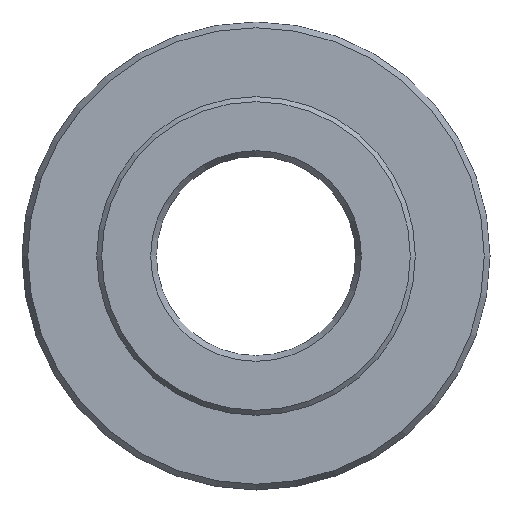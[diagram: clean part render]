
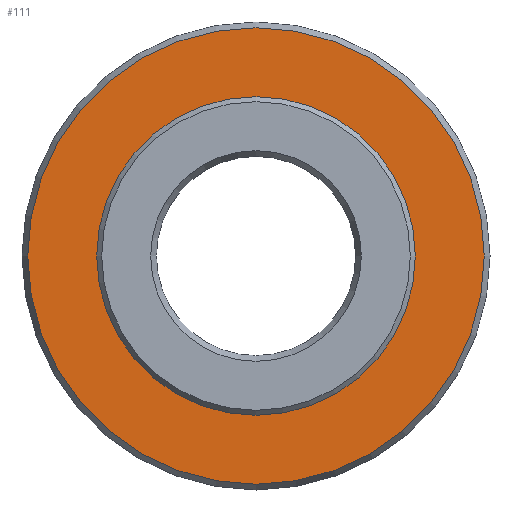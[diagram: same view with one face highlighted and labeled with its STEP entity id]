
A CAD part, left-side view. The second image highlights one B-rep face of the part: STEP entity #111.
In plain terms, the highlighted planar face has unit normal (-1, 0, 0).
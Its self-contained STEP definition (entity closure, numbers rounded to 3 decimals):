
#97=PLANE('',#323);
#111=ADVANCED_FACE('',(#144,#145),#97,.T.);
#144=FACE_BOUND('',#175,.T.);
#145=FACE_BOUND('',#176,.T.);
#175=EDGE_LOOP('',(#214));
#176=EDGE_LOOP('',(#215));
#214=ORIENTED_EDGE('',*,*,#279,.T.);
#215=ORIENTED_EDGE('',*,*,#280,.T.);
#258=VERTEX_POINT('',#461);
#259=VERTEX_POINT('',#463);
#279=EDGE_CURVE('',#258,#258,#298,.T.);
#280=EDGE_CURVE('',#259,#259,#299,.T.);
#298=CIRCLE('',#321,22.923);
#299=CIRCLE('',#322,16.);
#321=AXIS2_PLACEMENT_3D('',#460,#369,#370);
#322=AXIS2_PLACEMENT_3D('',#462,#371,#372);
#323=AXIS2_PLACEMENT_3D('',#464,#373,#374);
#369=DIRECTION('',(-1.,0.,0.));
#370=DIRECTION('',(0.,0.,1.));
#371=DIRECTION('',(1.,0.,0.));
#372=DIRECTION('',(0.,0.,-1.));
#373=DIRECTION('',(-1.,0.,0.));
#374=DIRECTION('',(0.,0.,1.));
#460=CARTESIAN_POINT('',(0.,0.,0.));
#461=CARTESIAN_POINT('',(0.,0.,22.923));
#462=CARTESIAN_POINT('',(0.,0.,0.));
#463=CARTESIAN_POINT('',(0.,0.,-16.));
#464=CARTESIAN_POINT('',(0.,23.5,0.));
